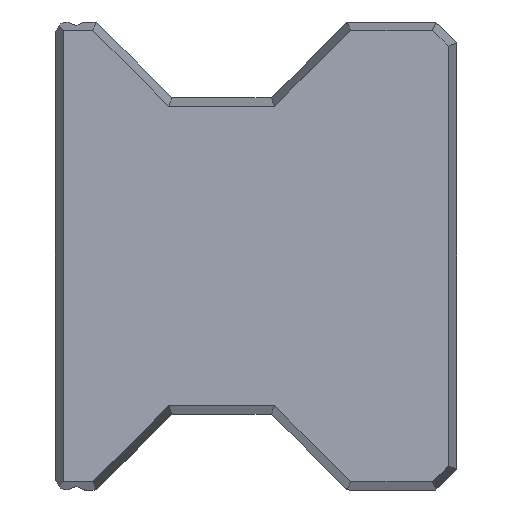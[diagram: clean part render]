
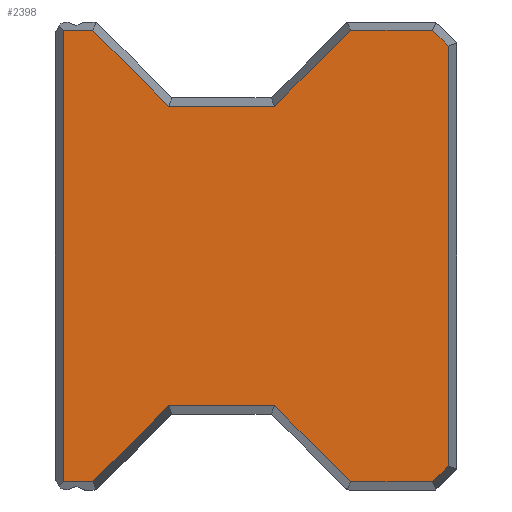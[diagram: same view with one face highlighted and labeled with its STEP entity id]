
A CAD part, left-side view. The second image highlights one B-rep face of the part: STEP entity #2398.
In plain terms, the highlighted planar face has unit normal (-1, 0, 0).
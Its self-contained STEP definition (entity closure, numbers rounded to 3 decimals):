
#452=ORIENTED_EDGE('',*,*,#1026,.T.);
#453=ORIENTED_EDGE('',*,*,#929,.T.);
#454=ORIENTED_EDGE('',*,*,#1027,.T.);
#455=ORIENTED_EDGE('',*,*,#1028,.T.);
#456=ORIENTED_EDGE('',*,*,#917,.T.);
#457=ORIENTED_EDGE('',*,*,#908,.T.);
#458=ORIENTED_EDGE('',*,*,#1029,.T.);
#459=ORIENTED_EDGE('',*,*,#902,.T.);
#460=ORIENTED_EDGE('',*,*,#1030,.T.);
#461=ORIENTED_EDGE('',*,*,#1031,.T.);
#462=ORIENTED_EDGE('',*,*,#1032,.T.);
#463=ORIENTED_EDGE('',*,*,#1033,.T.);
#464=ORIENTED_EDGE('',*,*,#921,.T.);
#465=ORIENTED_EDGE('',*,*,#926,.T.);
#902=EDGE_CURVE('',#1202,#1201,#1431,.T.);
#908=EDGE_CURVE('',#1207,#1206,#1436,.T.);
#917=EDGE_CURVE('',#1214,#1207,#1441,.T.);
#921=EDGE_CURVE('',#1217,#1216,#1444,.T.);
#926=EDGE_CURVE('',#1216,#1219,#1448,.T.);
#929=EDGE_CURVE('',#1222,#1221,#1450,.T.);
#1026=EDGE_CURVE('',#1219,#1222,#1500,.T.);
#1027=EDGE_CURVE('',#1221,#1302,#1501,.T.);
#1028=EDGE_CURVE('',#1302,#1214,#1502,.T.);
#1029=EDGE_CURVE('',#1206,#1202,#1503,.T.);
#1030=EDGE_CURVE('',#1201,#1303,#1504,.T.);
#1031=EDGE_CURVE('',#1303,#1304,#1505,.T.);
#1032=EDGE_CURVE('',#1304,#1305,#1506,.T.);
#1033=EDGE_CURVE('',#1305,#1217,#1507,.T.);
#1201=VERTEX_POINT('',#3745);
#1202=VERTEX_POINT('',#3747);
#1206=VERTEX_POINT('',#3757);
#1207=VERTEX_POINT('',#3759);
#1214=VERTEX_POINT('',#3776);
#1216=VERTEX_POINT('',#3782);
#1217=VERTEX_POINT('',#3784);
#1219=VERTEX_POINT('',#3791);
#1221=VERTEX_POINT('',#3797);
#1222=VERTEX_POINT('',#3799);
#1302=VERTEX_POINT('',#3990);
#1303=VERTEX_POINT('',#3994);
#1304=VERTEX_POINT('',#3996);
#1305=VERTEX_POINT('',#3998);
#1431=LINE('',#3746,#1581);
#1436=LINE('',#3758,#1586);
#1441=LINE('',#3775,#1591);
#1444=LINE('',#3783,#1594);
#1448=LINE('',#3792,#1598);
#1450=LINE('',#3798,#1600);
#1500=LINE('',#3988,#1650);
#1501=LINE('',#3989,#1651);
#1502=LINE('',#3991,#1652);
#1503=LINE('',#3992,#1653);
#1504=LINE('',#3993,#1654);
#1505=LINE('',#3995,#1655);
#1506=LINE('',#3997,#1656);
#1507=LINE('',#3999,#1657);
#1581=VECTOR('',#2932,1000.);
#1586=VECTOR('',#2941,1000.);
#1591=VECTOR('',#2956,1000.);
#1594=VECTOR('',#2963,1000.);
#1598=VECTOR('',#2971,1000.);
#1600=VECTOR('',#2977,1000.);
#1650=VECTOR('',#3147,1000.);
#1651=VECTOR('',#3148,1000.);
#1652=VECTOR('',#3149,1000.);
#1653=VECTOR('',#3150,1000.);
#1654=VECTOR('',#3151,1000.);
#1655=VECTOR('',#3152,1000.);
#1656=VECTOR('',#3153,1000.);
#1657=VECTOR('',#3154,1000.);
#1759=EDGE_LOOP('',(#452,#453,#454,#455,#456,#457,#458,#459,#460,#461,#462,
#463,#464,#465));
#2059=FACE_BOUND('',#1759,.T.);
#2321=PLANE('',#2636);
#2398=ADVANCED_FACE('',(#2059),#2321,.F.);
#2636=AXIS2_PLACEMENT_3D('',#3987,#3145,#3146);
#2932=DIRECTION('',(0.,-0.707,-0.707));
#2941=DIRECTION('',(0.,-0.707,0.707));
#2956=DIRECTION('',(0.,-1.,0.));
#2963=DIRECTION('',(0.,1.,0.));
#2971=DIRECTION('',(0.,0.707,-0.707));
#2977=DIRECTION('',(0.,0.707,0.707));
#3145=DIRECTION('',(1.,0.,0.));
#3146=DIRECTION('',(0.,0.,-1.));
#3147=DIRECTION('',(0.,1.,0.));
#3148=DIRECTION('',(0.,1.,0.));
#3149=DIRECTION('',(0.,0.,-1.));
#3150=DIRECTION('',(0.,-1.,0.));
#3151=DIRECTION('',(0.,-1.,0.));
#3152=DIRECTION('',(0.,-0.707,0.707));
#3153=DIRECTION('',(0.,0.,1.));
#3154=DIRECTION('',(0.,0.707,0.707));
#3745=CARTESIAN_POINT('',(0.,10.202,-21.707));
#3746=CARTESIAN_POINT('',(0.,15.954,-15.954));
#3747=CARTESIAN_POINT('',(0.,17.502,-14.407));
#3757=CARTESIAN_POINT('',(0.,27.698,-14.407));
#3758=CARTESIAN_POINT('',(0.,6.646,6.646));
#3759=CARTESIAN_POINT('',(0.,34.998,-21.707));
#3775=CARTESIAN_POINT('',(0.,0.,-21.707));
#3776=CARTESIAN_POINT('',(0.,37.807,-21.707));
#3782=CARTESIAN_POINT('',(0.,10.202,21.707));
#3783=CARTESIAN_POINT('',(0.,0.,21.707));
#3784=CARTESIAN_POINT('',(0.,2.329,21.707));
#3791=CARTESIAN_POINT('',(0.,17.502,14.407));
#3792=CARTESIAN_POINT('',(0.,15.954,15.954));
#3797=CARTESIAN_POINT('',(0.,34.998,21.707));
#3798=CARTESIAN_POINT('',(0.,6.646,-6.646));
#3799=CARTESIAN_POINT('',(0.,27.698,14.407));
#3987=CARTESIAN_POINT('',(0.,0.,0.));
#3988=CARTESIAN_POINT('',(0.,0.,14.407));
#3989=CARTESIAN_POINT('',(0.,0.,21.707));
#3990=CARTESIAN_POINT('',(0.,37.807,21.707));
#3991=CARTESIAN_POINT('',(0.,37.807,0.));
#3992=CARTESIAN_POINT('',(0.,0.,-14.407));
#3993=CARTESIAN_POINT('',(0.,0.,-21.707));
#3994=CARTESIAN_POINT('',(0.,2.329,-21.707));
#3995=CARTESIAN_POINT('',(0.,-9.689,-9.689));
#3996=CARTESIAN_POINT('',(0.,0.793,-20.171));
#3997=CARTESIAN_POINT('',(0.,0.793,0.));
#3998=CARTESIAN_POINT('',(0.,0.793,20.171));
#3999=CARTESIAN_POINT('',(0.,-9.689,9.689));
